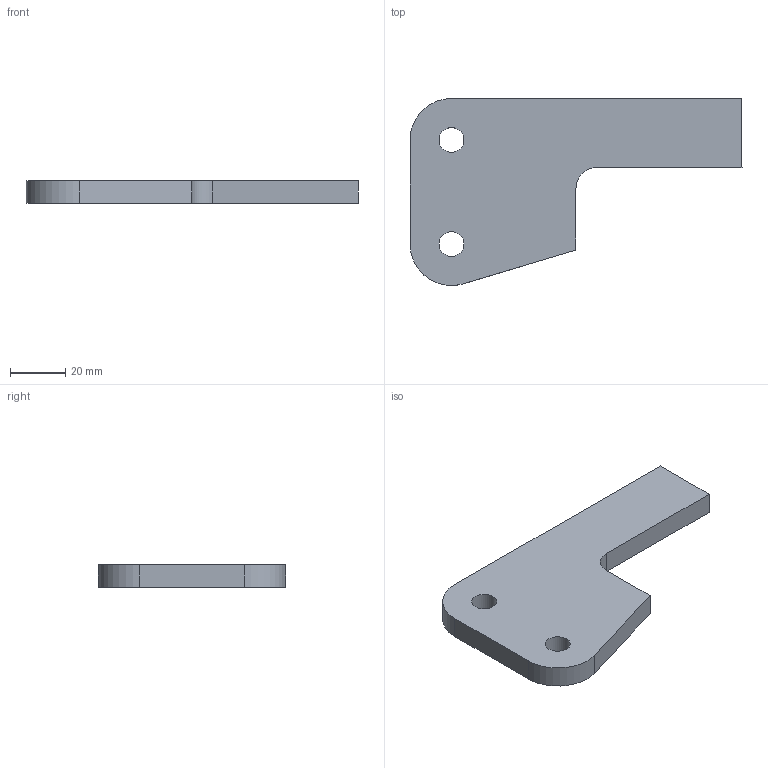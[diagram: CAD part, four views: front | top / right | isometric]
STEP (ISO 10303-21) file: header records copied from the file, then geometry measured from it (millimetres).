
FILE_DESCRIPTION(/* description */ (''),/* implementation_level */ '2;1');
FILE_NAME(/* name */ 'Pos148-Plaatwerk D= 8-S235JRG2-3st',/* time_stamp */ '2024-08-06T13:37:45+02:00',/* author */ (''),/* organization */ (''),/* preprocessor_version */ 'ST-DEVELOPER v16.5',/* originating_system */ 'HiCAD 2024 2901.2 Build 361',/* authorisation */ '');
FILE_SCHEMA (('AUTOMOTIVE_DESIGN { 1 0 10303 214 1 1 1 1 }'));
Length unit declared in the file: millimetre
Products named in the file (1): Pos148-Plaatwerk D= 8-S235JRG2-3st
Bounding box: 120 x 67.59 x 8 mm (x, y, z)
Volume: 40567.2 mm3; surface area: 13379.6 mm2
Topology: 1 solids, 1 shells, 13 faces, 35 edges, 24 vertices
Faces by surface type: plane 8, cylinder 5
Full cylindrical faces by diameter (mm): 9 x2
Entity records: 723 total; most frequent: DIRECTION 67, CARTESIAN_POINT 66, PRESENTATION_STYLE_ASSIGNMENT 63, COLOUR_RGB 63, DRAUGHTING_PRE_DEFINED_CURVE_FONT 62, CURVE_STYLE 62, OVER_RIDING_STYLED_ITEM 62, ORIENTED_EDGE 62
